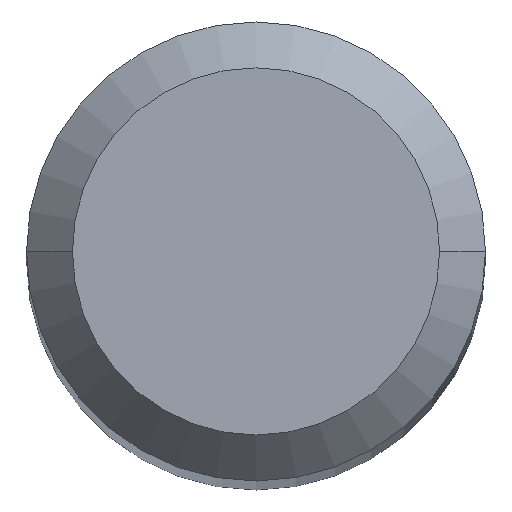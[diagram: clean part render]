
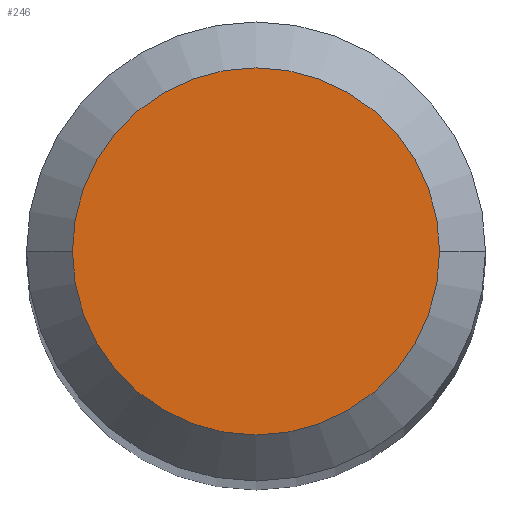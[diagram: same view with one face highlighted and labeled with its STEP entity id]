
A CAD part, top view. The second image highlights one B-rep face of the part: STEP entity #246.
In plain terms, the highlighted planar face has unit normal (0, 0, 1).
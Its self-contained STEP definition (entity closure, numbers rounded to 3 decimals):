
#39 = EDGE_LOOP ( 'NONE', ( #54, #522 ) ) ;
#54 = ORIENTED_EDGE ( 'NONE', *, *, #368, .F. ) ;
#123 = FACE_OUTER_BOUND ( 'NONE', #39, .T. ) ;
#127 = DIRECTION ( 'NONE',  ( 1., 0., 0. ) ) ;
#138 = CARTESIAN_POINT ( 'NONE',  ( 0., 0., 0. ) ) ;
#146 = DIRECTION ( 'NONE',  ( -1., 0., 0. ) ) ;
#177 = CIRCLE ( 'NONE', #387, 1.6 ) ;
#225 = PLANE ( 'NONE',  #562 ) ;
#228 = CIRCLE ( 'NONE', #319, 1.6 ) ;
#241 = DIRECTION ( 'NONE',  ( -1., 0., 0. ) ) ;
#246 = ADVANCED_FACE ( 'NONE', ( #123 ), #225, .T. ) ;
#298 = CARTESIAN_POINT ( 'NONE',  ( -1.6, 0., 0. ) ) ;
#312 = DIRECTION ( 'NONE',  ( 0., 0., 1. ) ) ;
#319 = AXIS2_PLACEMENT_3D ( 'NONE', #593, #392, #241 ) ;
#368 = EDGE_CURVE ( 'NONE', #582, #460, #177, .T. ) ;
#384 = DIRECTION ( 'NONE',  ( 0., 0., -1. ) ) ;
#387 = AXIS2_PLACEMENT_3D ( 'NONE', #138, #384, #146 ) ;
#392 = DIRECTION ( 'NONE',  ( 0., 0., -1. ) ) ;
#406 = CARTESIAN_POINT ( 'NONE',  ( 1.6, 0., 0. ) ) ;
#460 = VERTEX_POINT ( 'NONE', #406 ) ;
#522 = ORIENTED_EDGE ( 'NONE', *, *, #542, .F. ) ;
#532 = CARTESIAN_POINT ( 'NONE',  ( 0., 1.6, 0. ) ) ;
#542 = EDGE_CURVE ( 'NONE', #460, #582, #228, .T. ) ;
#562 = AXIS2_PLACEMENT_3D ( 'NONE', #532, #312, #127 ) ;
#582 = VERTEX_POINT ( 'NONE', #298 ) ;
#593 = CARTESIAN_POINT ( 'NONE',  ( 0., 0., 0. ) ) ;
